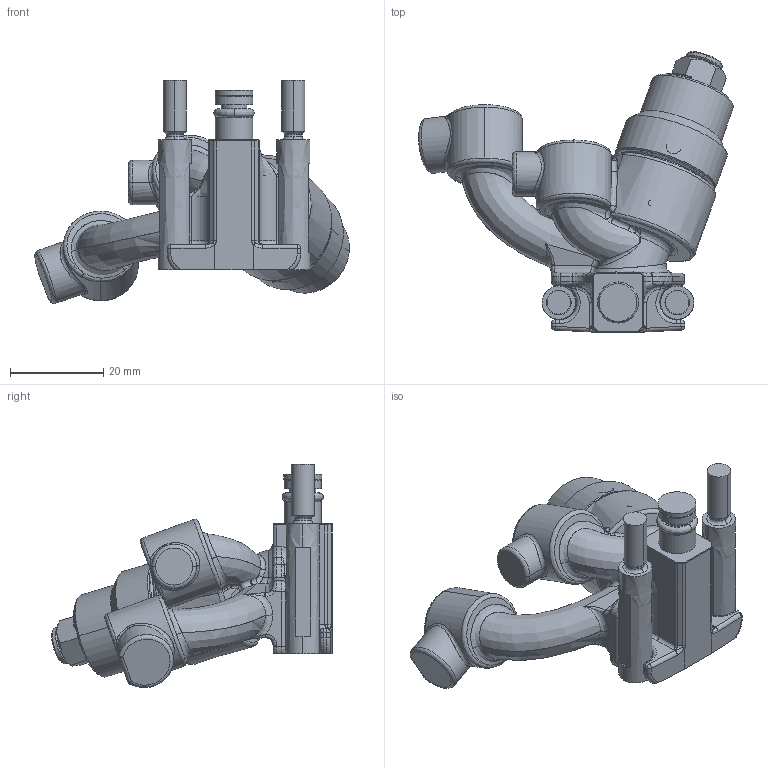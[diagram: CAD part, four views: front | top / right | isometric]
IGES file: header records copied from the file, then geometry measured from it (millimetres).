
Start section:  PTC IGES file: fxcc0100-en-a.igs
Global section: file name: fxcc0100-en-a.igs; native system: Creo Parametric by PTC Inc.; preprocessor: 2021072; author: qufmd1; organization: Unknown; date: 20220621.145933; units: inch
Bounding box: 67.48 x 60.21 x 47.86 mm (x, y, z)
Surface area: 13868.2 mm2 (no closed solid volume)
Topology: 0 solids, 0 shells, 362 faces, 1651 edges, 1650 vertices
Faces by surface type: revolution 179, bspline 177, extrusion 6
